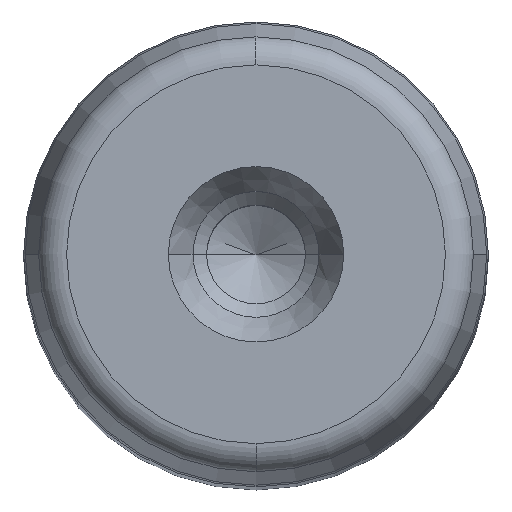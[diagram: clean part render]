
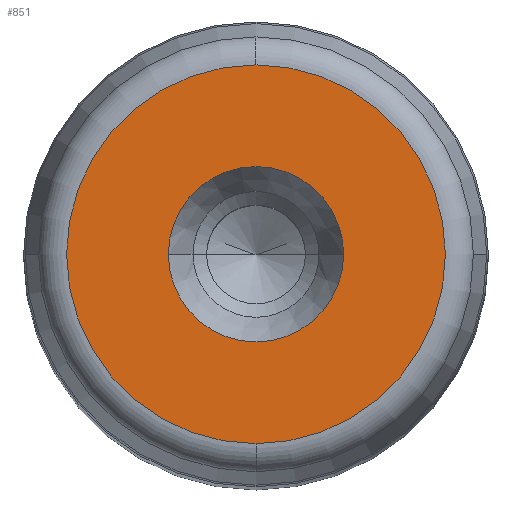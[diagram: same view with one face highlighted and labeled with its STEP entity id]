
A CAD part, top view. The second image highlights one B-rep face of the part: STEP entity #851.
In plain terms, the highlighted planar face has unit normal (0, 0, 1) as drawn and (0, 1, 0) by its records, which use the part's own axes.
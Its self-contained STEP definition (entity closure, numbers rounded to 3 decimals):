
#281=CARTESIAN_POINT('',(9.05,200.0,0.0));
#282=VERTEX_POINT('',#281);
#289=CARTESIAN_POINT('',(-9.05,200.0,0.));
#290=VERTEX_POINT('',#289);
#291=CARTESIAN_POINT('',(0.0,200.0,0.0));
#292=DIRECTION('',(0.0,1.0,0.0));
#293=DIRECTION('',(1.0,0.0,0.0));
#294=AXIS2_PLACEMENT_3D('',#291,#292,#293);
#295=CIRCLE('',#294,9.05);
#296=EDGE_CURVE('',#282,#290,#295,.T.);
#313=CARTESIAN_POINT('',(0.0,200.0,19.554));
#314=VERTEX_POINT('',#313);
#324=CARTESIAN_POINT('',(0.,200.0,-19.554));
#325=VERTEX_POINT('',#324);
#326=CARTESIAN_POINT('',(0.0,200.0,0.0));
#327=DIRECTION('',(0.0,1.0,0.0));
#328=DIRECTION('',(1.0,0.0,0.0));
#329=AXIS2_PLACEMENT_3D('',#326,#327,#328);
#330=CIRCLE('',#329,19.554);
#331=EDGE_CURVE('',#325,#314,#330,.T.);
#812=CARTESIAN_POINT('',(19.554,200.0,0.0));
#813=VERTEX_POINT('',#812);
#814=CARTESIAN_POINT('',(0.0,200.0,0.0));
#815=DIRECTION('',(0.0,1.0,0.0));
#816=DIRECTION('',(1.0,0.0,0.0));
#817=AXIS2_PLACEMENT_3D('',#814,#815,#816);
#818=CIRCLE('',#817,19.554);
#819=EDGE_CURVE('',#813,#325,#818,.T.);
#821=CARTESIAN_POINT('',(0.0,200.0,0.0));
#822=DIRECTION('',(0.0,1.0,0.0));
#823=DIRECTION('',(1.0,0.0,0.0));
#824=AXIS2_PLACEMENT_3D('',#821,#822,#823);
#825=CIRCLE('',#824,19.554);
#826=EDGE_CURVE('',#314,#813,#825,.T.);
#831=CARTESIAN_POINT('',(-21.51,200.0,-21.51));
#832=DIRECTION('',(0.0,1.0,0.0));
#833=DIRECTION('',(0.0,0.0,1.0));
#834=AXIS2_PLACEMENT_3D('',#831,#832,#833);
#835=PLANE('',#834);
#836=ORIENTED_EDGE('',*,*,#819,.T.);
#837=ORIENTED_EDGE('',*,*,#331,.T.);
#838=ORIENTED_EDGE('',*,*,#826,.T.);
#839=EDGE_LOOP('',(#836,#837,#838));
#840=FACE_OUTER_BOUND('',#839,.T.);
#841=ORIENTED_EDGE('',*,*,#296,.F.);
#842=CARTESIAN_POINT('',(0.0,200.0,0.0));
#843=DIRECTION('',(0.0,1.0,0.0));
#844=DIRECTION('',(1.0,0.0,0.0));
#845=AXIS2_PLACEMENT_3D('',#842,#843,#844);
#846=CIRCLE('',#845,9.05);
#847=EDGE_CURVE('',#290,#282,#846,.T.);
#848=ORIENTED_EDGE('',*,*,#847,.F.);
#849=EDGE_LOOP('',(#841,#848));
#850=FACE_BOUND('',#849,.T.);
#851=ADVANCED_FACE('',(#840,#850),#835,.T.);
